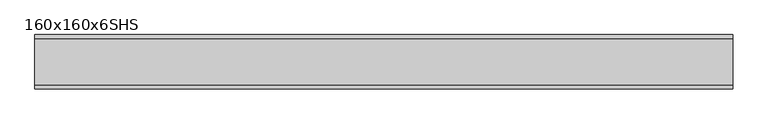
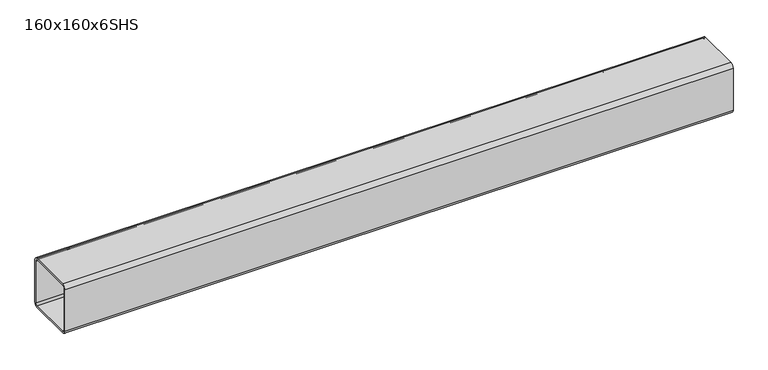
"""IFC4 building model written with IfcOpenShell, lengths in millimetres: beam geometry, КПС-Квадратное пустотелое сечение : 160x160x6SHS."""

from ifc_helpers import new_model, si_unit, point, frame, frame_2d, origin, place, context, project, spatial, polyline, circle_curve, trimmed, segment, composite_curve, outline, extrude, source, transform, mapped, element, save


def beam_160x160x6shs_bbe97a6c(model_context):
    return source(origin(), model_context, "Body", "SweptSolid", [
        extrude(outline(composite_curve([segment(polyline([(80.0, 68.0), (80.0, -68.0)]), True, "CONTINUOUS"), segment(trimmed(circle_curve(frame_2d((68.0, -68.0)), 12.0), [point((80.0, -68.0))], [point((68.0, -80.0))], False, "CARTESIAN"), True, "CONTINUOUS"), segment(polyline([(68.0, -80.0), (-68.0, -80.0)]), True, "CONTINUOUS"), segment(trimmed(circle_curve(frame_2d((-68.0, -68.0)), 12.0), [point((-68.0, -80.0))], [point((-80.0, -68.0))], False, "CARTESIAN"), True, "CONTINUOUS"), segment(polyline([(-80.0, -68.0), (-80.0, 68.0)]), True, "CONTINUOUS"), segment(trimmed(circle_curve(frame_2d((-68.0, 68.0)), 12.0), [point((-80.0, 68.0))], [point((-68.0, 80.0))], False, "CARTESIAN"), True, "CONTINUOUS"), segment(polyline([(-68.0, 80.0), (68.0, 80.0)]), True, "CONTINUOUS"), segment(trimmed(circle_curve(frame_2d((68.0, 68.0)), 12.0), [point((68.0, 80.0))], [point((80.0, 68.0))], False, "CARTESIAN"), True, "CONTINUOUS")], self_intersect=False), holes=[composite_curve([segment(trimmed(circle_curve(frame_2d((-68.0, 68.0)), 6.0), [point((-68.0, 74.0))], [point((-74.0, 68.0))], True, "CARTESIAN"), True, "CONTINUOUS"), segment(polyline([(-74.0, 68.0), (-74.0, -68.0)]), True, "CONTINUOUS"), segment(trimmed(circle_curve(frame_2d((-68.0, -68.0)), 6.0), [point((-74.0, -68.0))], [point((-68.0, -74.0))], True, "CARTESIAN"), True, "CONTINUOUS"), segment(polyline([(-68.0, -74.0), (68.0, -74.0)]), True, "CONTINUOUS"), segment(trimmed(circle_curve(frame_2d((68.0, -68.0)), 6.0), [point((68.0, -74.0))], [point((74.0, -68.0))], True, "CARTESIAN"), True, "CONTINUOUS"), segment(polyline([(74.0, -68.0), (74.0, 68.0)]), True, "CONTINUOUS"), segment(trimmed(circle_curve(frame_2d((68.0, 68.0)), 6.0), [point((74.0, 68.0))], [point((68.0, 74.0))], True, "CARTESIAN"), True, "CONTINUOUS"), segment(polyline([(68.0, 74.0), (-68.0, 74.0)]), True, "CONTINUOUS")], self_intersect=False)]), frame((-1030.0, 0.0, 0.0), z_axis=(1.0, 0.0, 0.0), x_axis=(0.0, 1.0, 0.0)), (0.0, 0.0, 1.0), 2060.0),
    ])


if __name__ == "__main__":
    model = new_model("IFC4")
    model_context = context("Model", 3, world=origin())
    ifc_project = project(units=[si_unit("LENGTHUNIT", "METRE", prefix="MILLI")], contexts=[model_context])
    site = spatial("IfcSite", under=ifc_project)
    building = spatial("IfcBuilding", under=site)
    placement = place(None, origin())
    beam_160x160x6shs_shape = beam_160x160x6shs_bbe97a6c(model_context)
    element("IfcBeam", 1, ObjectType="КПС-Квадратное пустотелое сечение : 160x160x6SHS", at=placement, inside=building, context=model_context, shape_type="MappedRepresentation", body=[
        mapped(beam_160x160x6shs_shape, transform((0.0, 0.0, 0.0), x_axis=(1.0, 0.0, 0.0), y_axis=(0.0, 1.0, 0.0), z_axis=(0.0, 0.0, 1.0))),
    ])
    save(model, "model.ifc")
